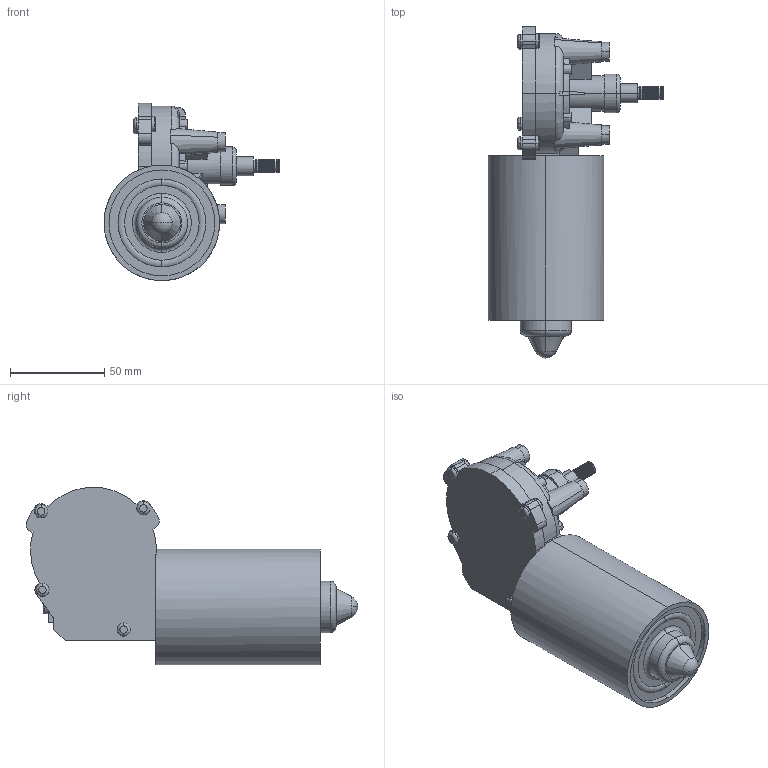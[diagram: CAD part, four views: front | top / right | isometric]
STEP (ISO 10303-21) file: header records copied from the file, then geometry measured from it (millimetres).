
FILE_DESCRIPTION (( 'STEP AP203' ), '1' );
FILE_NAME ('KTC POWER - 097 - 36W.STEP', '2026-07-14T11:02:23', ( '' ), ( '' ), 'SwSTEP 2.0', 'SolidWorks 2019', '' );
FILE_SCHEMA (( 'CONFIG_CONTROL_DESIGN' ));
Length unit declared in the file: millimetre
Products named in the file (1): KTC POWER - 097 - 36W
Bounding box: 93.1 x 175.66 x 93.9 mm (x, y, z)
Volume: 368305.5 mm3; surface area: 45811.7 mm2
Topology: 1 solids, 1 shells, 816 faces, 2264 edges, 1493 vertices
Faces by surface type: plane 471, cylinder 201, bspline 70, cone 38, torus 34, sphere 2
Entity records: 30830 total; most frequent: CARTESIAN_POINT 10283, ORIENTED_EDGE 4520, DIRECTION 3984, EDGE_CURVE 2260, VERTEX_POINT 1493, AXIS2_PLACEMENT_3D 1358, VECTOR 1268, LINE 1268
